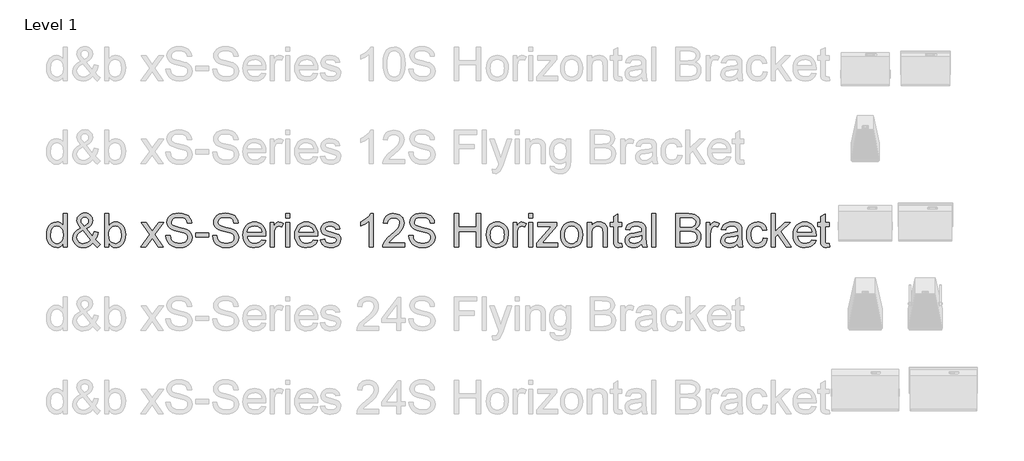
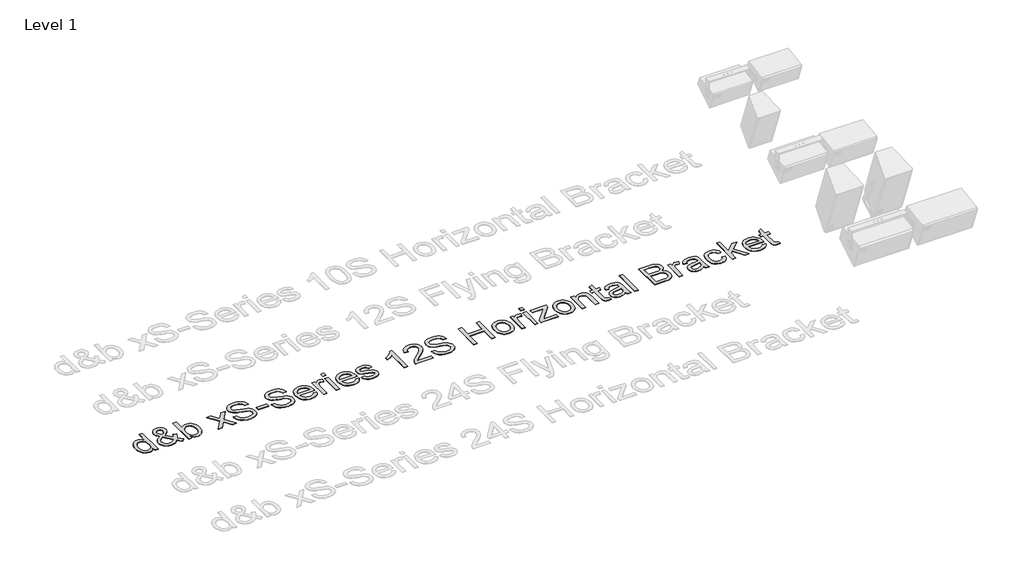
# One storey, part 33 of 55: 1 proxy.
"""IFC4 building model written with IfcOpenShell, lengths in millimetres."""

from ifc_helpers import new_model, si_unit, origin, origin_with_axes, place, context, project, spatial, polyline, outline, extrude, element, save

model = new_model("IFC4")

# Units and contexts
model_context = context("Model", 3, world=origin())
ifc_project = project(units=[si_unit("LENGTHUNIT", "METRE", prefix="MILLI")], contexts=[model_context])

# Site, building, storey
site = spatial("IfcSite", under=ifc_project)
building = spatial("IfcBuilding", under=site)
storey = spatial("IfcBuildingStorey", under=building, Name="Level 1", Elevation=0.0)

# Proxy
placement = place(None, origin())
element("IfcBuildingElementProxy", 1, Name="400mm Arial", ObjectType="400mm Arial", at=placement, inside=storey, context=model_context, shape_type="SweptSolid", body=[
    extrude(outline(polyline([(-20879.8211974, -2648.6945164), (-20879.8211974, -2601.3113154), (-20894.8491769, -2624.7883181), (-20913.0532043, -2641.5576057), (-20934.4332796, -2651.6191783), (-20958.9894028, -2654.9730358), (-20991.4611202, -2650.1169935), (-21021.1859854, -2635.5488665), (-21046.3491139, -2612.2864616), (-21065.1356211, -2581.3475858), (-21076.8342686, -2543.9830379), (-21080.7338177, -2501.4436165), (-21077.1408369, -2459.4314926), (-21066.3618944, -2421.4905962), (-21048.4092531, -2389.7791682), (-21023.2951755, -2366.4554497), (-20992.9203855, -2352.1080519), (-20959.1856065, -2347.325586), (-20934.6110892, -2350.7468885), (-20912.8815261, -2361.0107962), (-20894.4629008, -2376.7438829), (-20879.8211974, -2396.5727224), (-20879.8211974, -2246.8692758), (-20829.5930424, -2246.8692758), (-20829.5930424, -2648.6945164), (-20879.8211974, -2648.6945164)]), holes=[polyline([(-21030.5056627, -2501.2474128), (-21029.089317, -2525.6042665), (-21024.8402799, -2546.6808392), (-21017.7585515, -2564.4771307), (-21007.8441318, -2578.9931411), (-20983.1469871, -2598.3069458), (-20969.2717046, -2603.135397), (-20954.3786151, -2604.7448807), (-20939.415015, -2603.2089734), (-20925.6225058, -2598.6012514), (-20901.5507606, -2580.1703635), (-20892.0440767, -2566.2613584), (-20885.2535882, -2549.1088603), (-20879.8211974, -2505.0733855), (-20885.3516901, -2456.9298951), (-20892.2648059, -2438.3947739), (-20901.9431681, -2423.5507354), (-20913.6448812, -2412.1770504), (-20926.6280499, -2404.0529896), (-20940.8926743, -2399.1785532), (-20956.4387543, -2397.5537411), (-20971.6261493, -2399.1141738), (-20985.5014319, -2403.7954722), (-20998.064602, -2411.5976362), (-21009.3156597, -2422.5206658), (-21018.586286, -2436.8036843), (-21025.2081619, -2454.6858149), (-21030.5056627, -2501.2474128)])]), origin_with_axes(), (0.0, 0.0, 1.0), 5.0),
    extrude(outline(polyline([(-20523.809528, -2599.0549725), (-20549.3405384, -2623.5191252), (-20577.0788409, -2640.99352), (-20607.0734862, -2651.4781569), (-20639.3735254, -2654.9730358), (-20668.6814577, -2652.3855991), (-20694.8010793, -2644.623289), (-20717.7323904, -2631.6861055), (-20737.4753908, -2613.5740486), (-20750.308341, -2596.2038871), (-20759.4747341, -2577.8404442), (-20764.9745699, -2558.4837198), (-20766.8078485, -2538.1337141), (-20760.9094739, -2502.9396699), (-20743.2143499, -2471.3263438), (-20713.796053, -2443.3182613), (-20672.7281596, -2418.9399477), (-20694.6416638, -2390.5885086), (-20707.7995765, -2368.1231814), (-20714.3846642, -2348.9442668), (-20716.5796934, -2330.4520651), (-20714.8506481, -2312.8979626), (-20709.6635119, -2296.5333452), (-20701.018285, -2281.3582129), (-20688.9149674, -2267.3725657), (-20674.1935562, -2255.6555241), (-20657.6940487, -2247.2862088), (-20639.4164449, -2242.2646195), (-20619.3607448, -2240.5907564), (-20600.212487, -2242.1910431), (-20582.8913764, -2246.9919032), (-20567.397413, -2254.9933366), (-20553.7305969, -2266.1953433), (-20542.5715097, -2279.6414302), (-20534.6007332, -2294.3751041), (-20529.8182672, -2310.396365), (-20528.2241119, -2327.7052129), (-20532.9452642, -2355.68877), (-20547.108721, -2381.563137), (-20570.7144823, -2405.3283139), (-20603.7625482, -2426.9843007), (-20531.069066, -2517.5323224), (-20518.6837055, -2491.6579554), (-20509.3885538, -2461.9085647), (-20459.1603987, -2472.7978718), (-20474.6114425, -2519.3226815), (-20494.6732739, -2555.4977443), (-20466.1256311, -2588.8033276), (-20434.0463211, -2616.3209009), (-20471.7174374, -2654.9730358), (-20497.3465498, -2631.52669), (-20523.809528, -2599.0549725)]), holes=[polyline([(-20557.4584678, -2562.8553842), (-20647.1235727, -2450.9211558), (-20681.3733865, -2472.7733463), (-20702.305872, -2493.0068561), (-20713.0112381, -2512.3329235), (-20716.5796934, -2531.4627873), (-20711.6991256, -2555.1543878), (-20697.0574222, -2579.7289051), (-20686.2784798, -2590.6733944), (-20673.4639236, -2598.4908868), (-20658.6137537, -2603.1813823), (-20641.7279702, -2604.7448807), (-20619.0051256, -2601.8263502), (-20595.5710425, -2593.0707588), (-20574.1480476, -2579.6798541), (-20557.4584678, -2562.8553842)]), polyline([(-20629.1709314, -2395.2973981), (-20602.9041569, -2378.6323438), (-20587.8700461, -2364.1500559), (-20580.8067117, -2350.0601755), (-20578.452267, -2334.5723435), (-20581.5547385, -2317.0243723), (-20590.862153, -2303.0325938), (-20604.829406, -2293.8723321), (-20621.9113933, -2290.8189115), (-20639.3612626, -2293.8478066), (-20653.6473468, -2302.9344919), (-20663.1754905, -2316.3867102), (-20666.3515384, -2332.5122043), (-20662.0350563, -2350.9063041), (-20648.9875082, -2371.360543), (-20629.1709314, -2395.2973981)])]), origin_with_axes(), (0.0, 0.0, 1.0), 5.0),
    extrude(outline(polyline([(-20333.590011, -2648.6945164), (-20383.8181661, -2648.6945164), (-20383.8181661, -2246.8692758), (-20333.590011, -2246.8692758), (-20333.590011, -2395.8860093), (-20317.0721094, -2374.6408241), (-20298.4204923, -2359.4656918), (-20277.6351595, -2350.3606124), (-20254.7161112, -2347.325586), (-20228.8417442, -2350.0601755), (-20204.3898543, -2358.263944), (-20182.758393, -2371.4218567), (-20165.3453119, -2389.0188788), (-20151.6968898, -2410.883332), (-20141.3594058, -2436.8435381), (-20134.8478945, -2465.8203766), (-20132.6773907, -2496.734727), (-20134.9245365, -2532.4070178), (-20141.6659741, -2563.7873519), (-20152.9017034, -2590.8757295), (-20168.6317244, -2613.6721505), (-20187.5132678, -2631.7412878), (-20208.2035643, -2644.6478145), (-20230.702614, -2652.3917305), (-20255.0104168, -2654.9730358), (-20278.6836232, -2651.6437038), (-20299.671291, -2641.6557076), (-20317.9734203, -2625.0090473), (-20333.590011, -2601.7037229), (-20333.590011, -2648.6945164)]), holes=[polyline([(-20333.590011, -2499.0891717), (-20330.1564457, -2540.9786682), (-20319.8557498, -2569.3301073), (-20307.6849872, -2584.8240707), (-20293.5399244, -2595.8911874), (-20277.4205617, -2602.5314574), (-20259.3268989, -2604.7448807), (-20244.3050508, -2603.1139372), (-20230.3377977, -2598.2211067), (-20217.4251396, -2590.0663891), (-20205.5670767, -2578.6497845), (-20195.6526569, -2564.0019498), (-20188.5709285, -2546.1535416), (-20184.3218914, -2525.1045601), (-20182.9055458, -2500.8550053), (-20188.3379366, -2454.8942814), (-20195.1284251, -2437.1010555), (-20204.6351089, -2422.7659205), (-20216.0670419, -2411.735592), (-20228.6332778, -2403.8567859), (-20242.3338164, -2399.1295023), (-20257.1686579, -2397.5537411), (-20272.190506, -2399.1846846), (-20286.1577591, -2404.0775151), (-20299.0704171, -2412.2322327), (-20310.9284801, -2423.6488372), (-20320.8428999, -2438.1495192), (-20327.9246283, -2455.556469), (-20332.1736653, -2475.8696865), (-20333.590011, -2499.0891717)])]), origin_with_axes(), (0.0, 0.0, 1.0), 5.0),
    extrude(outline(polyline([(-19950.6003285, -2648.6945164), (-19843.2768878, -2500.2663941), (-19944.3218092, -2353.6041054), (-19884.0872638, -2353.6041054), (-19835.3306367, -2424.3355503), (-19812.4729021, -2457.5920827), (-19792.6563253, -2430.3197641), (-19737.1306695, -2353.6041054), (-19676.6999204, -2353.6041054), (-19782.8461387, -2500.364496), (-19680.623995, -2648.6945164), (-19740.9566422, -2648.6945164), (-19802.5646137, -2559.4218189), (-19813.7482263, -2543.0388074), (-19890.1695795, -2648.6945164), (-19950.6003285, -2648.6945164)])), origin_with_axes(), (0.0, 0.0, 1.0), 5.0),
    extrude(outline(polyline([(-19649.2313981, -2510.56709), (-19599.003243, -2510.56709), (-19593.2397584, -2538.4402825), (-19582.8164352, -2560.844296), (-19566.556051, -2578.6252591), (-19543.2813835, -2592.6293004), (-19514.8318425, -2601.7159856), (-19483.0468381, -2604.7448807), (-19455.063281, -2602.4517496), (-19430.5623402, -2595.5723563), (-19410.7089752, -2584.6830493), (-19396.6681457, -2570.3601769), (-19388.3172244, -2553.9158517), (-19385.533584, -2536.6621862), (-19387.6182486, -2519.849979), (-19393.8722425, -2505.3186402), (-19406.5764341, -2492.9210169), (-19428.0116917, -2482.5099565), (-19501.1466323, -2463.3310418), (-19549.1552327, -2450.639113), (-19579.8733793, -2438.5603208), (-19604.8770922, -2421.6622745), (-19622.5967416, -2401.1835101), (-19633.1549549, -2377.565486), (-19636.6743593, -2351.2496606), (-19632.3210891, -2321.8313637), (-19619.2612782, -2294.3996296), (-19597.8382834, -2271.1494875), (-19568.395461, -2254.2759667), (-19533.054264, -2244.012059), (-19493.9361452, -2240.5907564), (-19451.5561394, -2244.1714745), (-19414.4736342, -2254.9136288), (-19384.013005, -2272.59649), (-19361.4986269, -2296.999329), (-19347.249331, -2326.6015669), (-19341.5839483, -2359.8826247), (-19391.8121033, -2359.8826247), (-19401.0336787, -2329.9125049), (-19409.3968627, -2318.0544419), (-19420.2616443, -2308.2810436), (-19450.3053406, -2295.1844445), (-19491.9741079, -2290.8189115), (-19534.6238939, -2295.1353936), (-19550.9271976, -2300.5309962), (-19563.8827752, -2308.0848398), (-19580.805347, -2327.1411272), (-19586.4462043, -2349.7781326), (-19582.4485532, -2369.0796746), (-19570.4556002, -2384.6042948), (-19542.1041611, -2398.4857088), (-19488.4424407, -2412.6614283), (-19433.0639377, -2426.1259093), (-19399.5621507, -2437.8736077), (-19370.9286687, -2456.0960292), (-19350.9526764, -2478.5858819), (-19339.2172408, -2505.097911), (-19335.3054289, -2535.3868619), (-19339.805852, -2566.3502632), (-19353.3071212, -2595.4742545), (-19375.2574136, -2620.5392811), (-19405.1049061, -2639.3257883), (-19440.9979261, -2651.0612239), (-19481.0848008, -2654.9730358), (-19530.2951491, -2650.7546556), (-19570.7989567, -2638.099515), (-19603.0622077, -2616.958563), (-19627.5508858, -2587.2827487), (-19643.2717098, -2551.1322113), (-19649.2313981, -2510.56709)])), origin_with_axes(), (0.0, 0.0, 1.0), 5.0),
    extrude(outline(polyline([(-19291.3557932, -2529.4026481), (-19291.3557932, -2479.174493), (-19134.3928086, -2479.174493), (-19134.3928086, -2529.4026481), (-19291.3557932, -2529.4026481)])), origin_with_axes(), (0.0, 0.0, 1.0), 5.0),
    extrude(outline(polyline([(-19090.4431729, -2510.56709), (-19040.2150178, -2510.56709), (-19034.4515332, -2538.4402825), (-19024.02821, -2560.844296), (-19007.7678258, -2578.6252591), (-18984.4931583, -2592.6293004), (-18956.0436173, -2601.7159856), (-18924.2586129, -2604.7448807), (-18896.2750558, -2602.4517496), (-18871.774115, -2595.5723563), (-18851.9207499, -2584.6830493), (-18837.8799205, -2570.3601769), (-18829.5289992, -2553.9158517), (-18826.7453587, -2536.6621862), (-18828.8300234, -2519.849979), (-18835.0840173, -2505.3186402), (-18847.7882089, -2492.9210169), (-18869.2234665, -2482.5099565), (-18942.3584071, -2463.3310418), (-18990.3670075, -2450.639113), (-19021.0851541, -2438.5603208), (-19046.088867, -2421.6622745), (-19063.8085164, -2401.1835101), (-19074.3667297, -2377.565486), (-19077.8861341, -2351.2496606), (-19073.5328638, -2321.8313637), (-19060.473053, -2294.3996296), (-19039.0500582, -2271.1494875), (-19009.6072358, -2254.2759667), (-18974.2660388, -2244.012059), (-18935.14792, -2240.5907564), (-18892.7679141, -2244.1714745), (-18855.685409, -2254.9136288), (-18825.2247798, -2272.59649), (-18802.7104017, -2296.999329), (-18788.4611058, -2326.6015669), (-18782.7957231, -2359.8826247), (-18833.0238781, -2359.8826247), (-18842.2454535, -2329.9125049), (-18850.6086375, -2318.0544419), (-18861.4734191, -2308.2810436), (-18891.5171154, -2295.1844445), (-18933.1858827, -2290.8189115), (-18975.8356687, -2295.1353936), (-18992.1389724, -2300.5309962), (-19005.09455, -2308.0848398), (-19022.0171218, -2327.1411272), (-19027.657979, -2349.7781326), (-19023.660328, -2369.0796746), (-19011.667375, -2384.6042948), (-18983.3159359, -2398.4857088), (-18929.6542155, -2412.6614283), (-18874.2757125, -2426.1259093), (-18840.7739255, -2437.8736077), (-18812.1404435, -2456.0960292), (-18792.1644512, -2478.5858819), (-18780.4290156, -2505.097911), (-18776.5172037, -2535.3868619), (-18781.0176267, -2566.3502632), (-18794.518896, -2595.4742545), (-18816.4691883, -2620.5392811), (-18846.3166809, -2639.3257883), (-18882.2097009, -2651.0612239), (-18922.2965756, -2654.9730358), (-18971.5069238, -2650.7546556), (-19012.0107315, -2638.099515), (-19044.2739825, -2616.958563), (-19068.7626606, -2587.2827487), (-19084.4834846, -2551.1322113), (-19090.4431729, -2510.56709)])), origin_with_axes(), (0.0, 0.0, 1.0), 5.0),
    extrude(outline(polyline([(-18500.850962, -2560.795245), (-18451.6038255, -2567.0737644), (-18459.1546035, -2586.7983707), (-18469.3480004, -2604.180795), (-18482.1840164, -2619.2210372), (-18497.6626513, -2631.9190974), (-18515.6244897, -2642.0051955), (-18535.9101161, -2649.2095512), (-18583.4527326, -2654.9730358), (-18614.618469, -2652.4867667), (-18642.3874282, -2645.0279592), (-18666.7596104, -2632.5966135), (-18687.7350155, -2615.1927294), (-18704.602405, -2593.300685), (-18716.6505403, -2567.4048582), (-18723.8794215, -2537.5052491), (-18726.2890486, -2503.6018575), (-18723.8548961, -2468.5488348), (-18716.5524385, -2437.6528785), (-18704.3816758, -2410.9139888), (-18687.342608, -2388.3321657), (-18666.4223852, -2370.3917871), (-18642.6081574, -2357.5772309), (-18615.8999246, -2349.8884972), (-18586.2976867, -2347.325586), (-18557.6488763, -2349.8823658), (-18531.7407868, -2357.5527054), (-18508.5734182, -2370.3366048), (-18488.1467704, -2388.2340638), (-18471.472519, -2410.766836), (-18459.5623394, -2437.4566748), (-18452.4162316, -2468.3035801), (-18450.0341957, -2503.3075519), (-18450.3285013, -2516.8456094), (-18676.0608935, -2516.8456094), (-18673.1515601, -2536.8890467), (-18667.3666157, -2554.4431493), (-18658.7060604, -2569.507917), (-18647.1698942, -2582.0833498), (-18633.3957791, -2591.9977696), (-18618.0213774, -2599.079498), (-18582.4717139, -2604.7448807), (-18555.7389556, -2602.1206558), (-18533.2245775, -2594.2479811), (-18514.9285796, -2580.6363473), (-18500.850962, -2560.795245)]), holes=[polyline([(-18676.0608935, -2466.6174543), (-18500.2623508, -2466.6174543), (-18507.0559049, -2440.0808997), (-18520.3732332, -2421.0981887), (-18534.0707061, -2410.7974929), (-18549.65664, -2403.439853), (-18567.1310348, -2399.025269), (-18586.4938904, -2397.5537411), (-18620.3512967, -2402.2503679), (-18648.3471166, -2416.3402483), (-18667.8080741, -2438.3028034), (-18676.0608935, -2466.6174543)])]), origin_with_axes(), (0.0, 0.0, 1.0), 5.0),
    extrude(outline(polyline([(-18399.8060406, -2648.6945164), (-18399.8060406, -2353.6041054), (-18355.8564049, -2353.6041054), (-18355.8564049, -2397.2594355), (-18339.6205462, -2371.9491542), (-18324.6600117, -2357.0376707), (-18309.6504263, -2349.7536071), (-18293.2674148, -2347.325586), (-18268.2514391, -2351.2006097), (-18242.843056, -2362.8256807), (-18259.618475, -2407.8544369), (-18277.2768108, -2400.128915), (-18294.9351465, -2397.5537411), (-18309.9324692, -2400.0308132), (-18323.3356365, -2407.4620295), (-18334.1636299, -2419.2833042), (-18341.4354307, -2434.9305518), (-18347.5422718, -2462.9876853), (-18349.5778855, -2493.5954673), (-18349.5778855, -2648.6945164), (-18399.8060406, -2648.6945164)])), origin_with_axes(), (0.0, 0.0, 1.0), 5.0),
    extrude(outline(polyline([(-18211.4504591, -2297.0974309), (-18211.4504591, -2246.8692758), (-18161.222304, -2246.8692758), (-18161.222304, -2297.0974309), (-18211.4504591, -2297.0974309)])), origin_with_axes(), (0.0, 0.0, 1.0), 5.0),
    extrude(outline(polyline([(-18211.4504591, -2648.6945164), (-18211.4504591, -2353.6041054), (-18161.222304, -2353.6041054), (-18161.222304, -2648.6945164), (-18211.4504591, -2648.6945164)])), origin_with_axes(), (0.0, 0.0, 1.0), 5.0),
    extrude(outline(polyline([(-17879.2775429, -2560.795245), (-17830.0304065, -2567.0737644), (-17837.5811844, -2586.7983707), (-17847.7745814, -2604.180795), (-17860.6105973, -2619.2210372), (-17876.0892323, -2631.9190974), (-17894.0510707, -2642.0051955), (-17914.336697, -2649.2095512), (-17961.8793136, -2654.9730358), (-17993.0450499, -2652.4867667), (-18020.8140092, -2645.0279592), (-18045.1861914, -2632.5966135), (-18066.1615965, -2615.1927294), (-18083.0289859, -2593.300685), (-18095.0771213, -2567.4048582), (-18102.3060025, -2537.5052491), (-18104.7156295, -2503.6018575), (-18102.281477, -2468.5488348), (-18094.9790194, -2437.6528785), (-18082.8082567, -2410.9139888), (-18065.769189, -2388.3321657), (-18044.8489662, -2370.3917871), (-18021.0347384, -2357.5772309), (-17994.3265055, -2349.8884972), (-17964.7242676, -2347.325586), (-17936.0754573, -2349.8823658), (-17910.1673678, -2357.5527054), (-17886.9999991, -2370.3366048), (-17866.5733513, -2388.2340638), (-17849.8990999, -2410.766836), (-17837.9889203, -2437.4566748), (-17830.8428126, -2468.3035801), (-17828.4607766, -2503.3075519), (-17828.7550822, -2516.8456094), (-18054.4874745, -2516.8456094), (-18051.578141, -2536.8890467), (-18045.7931967, -2554.4431493), (-18037.1326413, -2569.507917), (-18025.5964751, -2582.0833498), (-18011.8223601, -2591.9977696), (-17996.4479584, -2599.079498), (-17960.8982949, -2604.7448807), (-17934.1655366, -2602.1206558), (-17911.6511585, -2594.2479811), (-17893.3551606, -2580.6363473), (-17879.2775429, -2560.795245)]), holes=[polyline([(-18054.4874745, -2466.6174543), (-17878.6889317, -2466.6174543), (-17885.4824859, -2440.0808997), (-17898.7998141, -2421.0981887), (-17912.4972871, -2410.7974929), (-17928.0832209, -2403.439853), (-17945.5576157, -2399.025269), (-17964.9204714, -2397.5537411), (-17998.7778777, -2402.2503679), (-18026.7736975, -2416.3402483), (-18046.234655, -2438.3028034), (-18054.4874745, -2466.6174543)])]), origin_with_axes(), (0.0, 0.0, 1.0), 5.0),
    extrude(outline(polyline([(-17797.0681797, -2560.795245), (-17746.8400246, -2554.5167257), (-17738.918299, -2576.0010342), (-17723.5898825, -2591.7954345), (-17700.7566734, -2601.5075192), (-17670.3205696, -2604.7448807), (-17640.2523479, -2601.7772993), (-17619.1113959, -2592.874555), (-17606.6034081, -2579.9741597), (-17602.4340788, -2565.0136253), (-17606.6279335, -2552.2113318), (-17619.2094978, -2542.4501962), (-17670.9091808, -2528.1273239), (-17746.545719, -2503.5528066), (-17765.6878455, -2491.2042343), (-17779.5569967, -2474.858011), (-17787.9814944, -2455.556469), (-17790.7896603, -2434.3419406), (-17788.5333174, -2414.880983), (-17781.7642887, -2396.9160789), (-17771.0957109, -2381.1584668), (-17757.1407205, -2368.3193852), (-17725.2085633, -2353.4569526), (-17704.3251287, -2348.8584276), (-17681.9946916, -2347.325586), (-17649.302245, -2349.7903953), (-17620.8772295, -2357.1848234), (-17598.0194949, -2368.785369), (-17582.0288908, -2383.8685308), (-17571.4338893, -2403.5502176), (-17564.7629625, -2428.946338), (-17614.9911176, -2435.2248574), (-17621.3309506, -2419.4181943), (-17633.8757267, -2407.5110804), (-17652.748073, -2400.0430759), (-17678.070617, -2397.5537411), (-17706.9125654, -2399.9327113), (-17726.140531, -2407.069622), (-17736.9562617, -2417.3703179), (-17740.5615053, -2429.2406436), (-17734.5772915, -2443.8578215), (-17715.8398352, -2454.9433323), (-17672.5769125, -2465.6364356), (-17598.8533607, -2489.2789852), (-17579.3801404, -2500.5852252), (-17564.6158097, -2516.0607944), (-17555.3083952, -2535.7547439), (-17552.2059237, -2559.7161245), (-17555.8479555, -2584.4868455), (-17566.7740507, -2607.7860386), (-17584.5672766, -2627.7865564), (-17608.8107, -2642.6612517), (-17638.0941069, -2651.8950898), (-17671.0072827, -2654.9730358), (-17698.040478, -2653.4892451), (-17721.6523707, -2649.037873), (-17741.8429609, -2641.6189194), (-17758.6122485, -2631.2323844), (-17772.3097214, -2617.9273189), (-17783.2848676, -2601.7527738), (-17791.5376871, -2582.7087492), (-17797.0681797, -2560.795245)])), origin_with_axes(), (0.0, 0.0, 1.0), 5.0),
    extrude(outline(polyline([(-17162.9377219, -2648.6945164), (-17213.165877, -2648.6945164), (-17213.165877, -2335.5533621), (-17234.1351507, -2352.5127221), (-17260.7452817, -2369.4475566), (-17313.6221871, -2394.8068888), (-17313.6221871, -2347.325586), (-17274.1729745, -2325.8658029), (-17239.9967371, -2300.3347925), (-17213.0555124, -2273.1851012), (-17195.3113375, -2246.8692758), (-17162.9377219, -2246.8692758), (-17162.9377219, -2648.6945164)])), origin_with_axes(), (0.0, 0.0, 1.0), 5.0),
    extrude(outline(polyline([(-16786.2265588, -2598.4663614), (-16786.2265588, -2648.6945164), (-17049.924373, -2648.6945164), (-17048.820727, -2631.0116552), (-17044.5287704, -2614.0645579), (-17032.1311471, -2587.0007058), (-17013.9700393, -2560.7461941), (-16987.7155276, -2533.2654091), (-16951.0376927, -2502.522737), (-16896.8486748, -2454.3792466), (-16864.3646946, -2418.8418458), (-16848.1410986, -2389.9998974), (-16842.7332333, -2361.9427639), (-16847.846793, -2336.7918982), (-16863.1874722, -2315.8839381), (-16886.7687081, -2301.7940577), (-16916.6039379, -2297.0974309), (-16947.9352212, -2301.6836931), (-16972.2767465, -2315.4424797), (-16987.9853077, -2337.2946702), (-16993.4176985, -2366.1611441), (-17043.6458536, -2359.8826247), (-17039.3263058, -2333.9530755), (-17031.4689596, -2311.2976759), (-17020.0738147, -2291.9164261), (-17005.1408714, -2275.8093261), (-16987.0134861, -2263.1480541), (-16966.0350153, -2254.1042884), (-16942.2054591, -2248.678029), (-16915.5248174, -2246.8692758), (-16888.6050524, -2248.8803641), (-16864.6467375, -2254.9136288), (-16843.6498726, -2264.96907), (-16825.6144578, -2279.0466877), (-16811.1291042, -2296.1041495), (-16800.7824231, -2315.0991232), (-16794.5744144, -2336.0316087), (-16792.5050782, -2358.9016061), (-16794.7368957, -2382.9243004), (-16801.432348, -2406.5300617), (-16813.3149364, -2430.5404933), (-16831.1081622, -2455.7771982), (-16859.4718641, -2485.9067336), (-16903.0658805, -2524.5956567), (-16960.8478792, -2572.9108254), (-16983.5094101, -2598.4663614), (-16786.2265588, -2598.4663614)])), origin_with_axes(), (0.0, 0.0, 1.0), 5.0),
    extrude(outline(polyline([(-16735.9984038, -2510.56709), (-16685.7702487, -2510.56709), (-16680.0067641, -2538.4402825), (-16669.5834409, -2560.844296), (-16653.3230567, -2578.6252591), (-16630.0483891, -2592.6293004), (-16601.5988482, -2601.7159856), (-16569.8138438, -2604.7448807), (-16541.8302867, -2602.4517496), (-16517.3293458, -2595.5723563), (-16497.4759808, -2584.6830493), (-16483.4351513, -2570.3601769), (-16475.08423, -2553.9158517), (-16472.3005896, -2536.6621862), (-16474.3852543, -2519.849979), (-16480.6392482, -2505.3186402), (-16493.3434397, -2492.9210169), (-16514.7786973, -2482.5099565), (-16587.913638, -2463.3310418), (-16635.9222383, -2450.639113), (-16666.6403849, -2438.5603208), (-16691.6440979, -2421.6622745), (-16709.3637473, -2401.1835101), (-16719.9219606, -2377.565486), (-16723.441365, -2351.2496606), (-16719.0880947, -2321.8313637), (-16706.0282839, -2294.3996296), (-16684.605289, -2271.1494875), (-16655.1624667, -2254.2759667), (-16619.8212697, -2244.012059), (-16580.7031509, -2240.5907564), (-16538.323145, -2244.1714745), (-16501.2406399, -2254.9136288), (-16470.7800107, -2272.59649), (-16448.2656326, -2296.999329), (-16434.0163367, -2326.6015669), (-16428.3509539, -2359.8826247), (-16478.579109, -2359.8826247), (-16487.8006843, -2329.9125049), (-16496.1638684, -2318.0544419), (-16507.02865, -2308.2810436), (-16537.0723462, -2295.1844445), (-16578.7411136, -2290.8189115), (-16621.3908995, -2295.1353936), (-16637.6942033, -2300.5309962), (-16650.6497809, -2308.0848398), (-16667.5723527, -2327.1411272), (-16673.2132099, -2349.7781326), (-16669.2155589, -2369.0796746), (-16657.2226059, -2384.6042948), (-16628.8711668, -2398.4857088), (-16575.2094464, -2412.6614283), (-16519.8309434, -2426.1259093), (-16486.3291564, -2437.8736077), (-16457.6956744, -2456.0960292), (-16437.7196821, -2478.5858819), (-16425.9842464, -2505.097911), (-16422.0724345, -2535.3868619), (-16426.5728576, -2566.3502632), (-16440.0741268, -2595.4742545), (-16462.0244192, -2620.5392811), (-16491.8719118, -2639.3257883), (-16527.7649318, -2651.0612239), (-16567.8518065, -2654.9730358), (-16617.0621547, -2650.7546556), (-16657.5659624, -2638.099515), (-16689.8292134, -2616.958563), (-16714.3178915, -2587.2827487), (-16730.0387154, -2551.1322113), (-16735.9984038, -2510.56709)])), origin_with_axes(), (0.0, 0.0, 1.0), 5.0),
    extrude(outline(polyline([(-16189.7672173, -2648.6945164), (-16189.7672173, -2246.8692758), (-16139.5390622, -2246.8692758), (-16139.5390622, -2410.1107798), (-15926.0694032, -2410.1107798), (-15926.0694032, -2246.8692758), (-15875.8412481, -2246.8692758), (-15875.8412481, -2648.6945164), (-15926.0694032, -2648.6945164), (-15926.0694032, -2460.3389349), (-16139.5390622, -2460.3389349), (-16139.5390622, -2648.6945164), (-16189.7672173, -2648.6945164)])), origin_with_axes(), (0.0, 0.0, 1.0), 5.0),
    extrude(outline(polyline([(-15806.7775349, -2501.1493109), (-15804.0613395, -2462.932503), (-15795.9127533, -2430.000933), (-15782.3317763, -2402.3546011), (-15763.3184085, -2379.9935072), (-15744.176282, -2365.7012916), (-15723.0475928, -2355.4925663), (-15699.9323407, -2349.3673311), (-15674.8305259, -2347.325586), (-15647.1198147, -2349.8118551), (-15622.0639851, -2357.2706626), (-15599.6630373, -2369.7020083), (-15579.9169712, -2387.1058924), (-15563.8006741, -2408.8937036), (-15552.2890333, -2434.4768306), (-15545.3820489, -2463.8552736), (-15543.0797207, -2497.0290325), (-15547.1509481, -2547.7722224), (-15559.3646304, -2586.3998319), (-15579.3651482, -2615.3276195), (-15606.7968823, -2636.9713435), (-15639.3789643, -2650.4726127), (-15674.8305259, -2654.9730358), (-15702.9459074, -2652.4959637), (-15728.2347289, -2645.0647474), (-15750.6969904, -2632.6793869), (-15770.3326919, -2615.3398822), (-15786.2773107, -2593.3405389), (-15797.6663241, -2566.9756626), (-15804.4997322, -2536.2452532), (-15806.7775349, -2501.1493109)]), holes=[polyline([(-15756.5493798, -2501.051209), (-15755.0962459, -2525.4141942), (-15750.7368443, -2546.5091609), (-15743.4711749, -2564.3361093), (-15733.2992377, -2578.8950392), (-15720.9261399, -2590.2043449), (-15707.0569887, -2598.2824204), (-15691.691784, -2603.1292656), (-15674.8305259, -2604.7448807), (-15658.055107, -2603.1200686), (-15642.751216, -2598.2456322), (-15628.9188529, -2590.1215714), (-15616.5580179, -2578.7478864), (-15606.3860807, -2564.0448693), (-15599.1204113, -2545.9328124), (-15594.7610097, -2524.4117157), (-15593.3078758, -2499.4815792), (-15594.7702067, -2475.8911462), (-15599.1571995, -2455.3480025), (-15606.4688542, -2437.8521479), (-15616.7051707, -2423.4035826), (-15629.111991, -2412.0942769), (-15642.935157, -2404.0162014), (-15658.1746686, -2399.1693561), (-15674.8305259, -2397.5537411), (-15691.691784, -2399.1632248), (-15707.0569887, -2403.991676), (-15720.9261399, -2412.0390946), (-15733.2992377, -2423.3054807), (-15743.4711749, -2437.8214911), (-15750.7368443, -2455.6177826), (-15755.0962459, -2476.6943553), (-15756.5493798, -2501.051209)])]), origin_with_axes(), (0.0, 0.0, 1.0), 5.0),
    extrude(outline(polyline([(-15486.5730463, -2648.6945164), (-15486.5730463, -2353.6041054), (-15442.6234106, -2353.6041054), (-15442.6234106, -2397.2594355), (-15426.3875519, -2371.9491542), (-15411.4270174, -2357.0376707), (-15396.417432, -2349.7536071), (-15380.0344205, -2347.325586), (-15355.0184448, -2351.2006097), (-15329.6100617, -2362.8256807), (-15346.3854806, -2407.8544369), (-15364.0438164, -2400.128915), (-15381.7021522, -2397.5537411), (-15396.6994749, -2400.0308132), (-15410.1026422, -2407.4620295), (-15420.9306356, -2419.2833042), (-15428.2024364, -2434.9305518), (-15434.3092775, -2462.9876853), (-15436.3448912, -2493.5954673), (-15436.3448912, -2648.6945164), (-15486.5730463, -2648.6945164)])), origin_with_axes(), (0.0, 0.0, 1.0), 5.0),
    extrude(outline(polyline([(-15298.2174647, -2648.6945164), (-15298.2174647, -2353.6041054), (-15247.9893097, -2353.6041054), (-15247.9893097, -2648.6945164), (-15298.2174647, -2648.6945164)])), origin_with_axes(), (0.0, 0.0, 1.0), 5.0),
    extrude(outline(polyline([(-15298.2174647, -2297.0974309), (-15298.2174647, -2246.8692758), (-15247.9893097, -2246.8692758), (-15247.9893097, -2297.0974309), (-15298.2174647, -2297.0974309)])), origin_with_axes(), (0.0, 0.0, 1.0), 5.0),
    extrude(outline(polyline([(-15204.039674, -2648.6945164), (-15204.039674, -2601.4094173), (-15030.6936778, -2403.8322604), (-15082.0009534, -2403.8322604), (-15191.4826352, -2403.8322604), (-15191.4826352, -2353.6041054), (-14959.177418, -2353.6041054), (-14959.177418, -2396.2784168), (-15112.903041, -2571.5864502), (-15136.4474887, -2598.4663614), (-15078.3711844, -2598.4663614), (-14952.8988986, -2598.4663614), (-14952.8988986, -2648.6945164), (-15204.039674, -2648.6945164)])), origin_with_axes(), (0.0, 0.0, 1.0), 5.0),
    extrude(outline(polyline([(-14915.2277823, -2501.1493109), (-14912.5115869, -2462.932503), (-14904.3630007, -2430.000933), (-14890.7820237, -2402.3546011), (-14871.7686559, -2379.9935072), (-14852.6265295, -2365.7012916), (-14831.4978402, -2355.4925663), (-14808.3825882, -2349.3673311), (-14783.2807734, -2347.325586), (-14755.5700621, -2349.8118551), (-14730.5142325, -2357.2706626), (-14708.1132847, -2369.7020083), (-14688.3672186, -2387.1058924), (-14672.2509215, -2408.8937036), (-14660.7392808, -2434.4768306), (-14653.8322963, -2463.8552736), (-14651.5299682, -2497.0290325), (-14655.6011956, -2547.7722224), (-14667.8148778, -2586.3998319), (-14687.8153956, -2615.3276195), (-14715.2471297, -2636.9713435), (-14747.8292118, -2650.4726127), (-14783.2807734, -2654.9730358), (-14811.3961548, -2652.4959637), (-14836.6849763, -2645.0647474), (-14859.1472378, -2632.6793869), (-14878.7829393, -2615.3398822), (-14894.7275581, -2593.3405389), (-14906.1165715, -2566.9756626), (-14912.9499796, -2536.2452532), (-14915.2277823, -2501.1493109)]), holes=[polyline([(-14864.9996272, -2501.051209), (-14863.5464933, -2525.4141942), (-14859.1870917, -2546.5091609), (-14851.9214223, -2564.3361093), (-14841.7494851, -2578.8950392), (-14829.3763874, -2590.2043449), (-14815.5072361, -2598.2824204), (-14800.1420315, -2603.1292656), (-14783.2807734, -2604.7448807), (-14766.5053544, -2603.1200686), (-14751.2014634, -2598.2456322), (-14737.3691004, -2590.1215714), (-14725.0082653, -2578.7478864), (-14714.8363282, -2564.0448693), (-14707.5706588, -2545.9328124), (-14703.2112571, -2524.4117157), (-14701.7581232, -2499.4815792), (-14703.2204542, -2475.8911462), (-14707.607447, -2455.3480025), (-14714.9191016, -2437.8521479), (-14725.1554181, -2423.4035826), (-14737.5622384, -2412.0942769), (-14751.3854044, -2404.0162014), (-14766.624916, -2399.1693561), (-14783.2807734, -2397.5537411), (-14800.1420315, -2399.1632248), (-14815.5072361, -2403.991676), (-14829.3763874, -2412.0390946), (-14841.7494851, -2423.3054807), (-14851.9214223, -2437.8214911), (-14859.1870917, -2455.6177826), (-14863.5464933, -2476.6943553), (-14864.9996272, -2501.051209)])]), origin_with_axes(), (0.0, 0.0, 1.0), 5.0),
    extrude(outline(polyline([(-14595.0232937, -2648.6945164), (-14595.0232937, -2353.6041054), (-14544.7951386, -2353.6041054), (-14544.7951386, -2394.8068888), (-14527.3452693, -2374.0338188), (-14506.3882583, -2359.1959117), (-14481.9241056, -2350.2931674), (-14453.9528113, -2347.325586), (-14429.194353, -2349.7168189), (-14406.5205594, -2356.8905179), (-14387.6114248, -2367.9515032), (-14374.1469438, -2382.0045954), (-14365.0112076, -2399.0130063), (-14359.0883075, -2418.9399477), (-14356.4395571, -2467.5003711), (-14356.4395571, -2648.6945164), (-14406.6677122, -2648.6945164), (-14406.6677122, -2474.2693998), (-14408.1147147, -2448.2969309), (-14412.4557222, -2429.8292548), (-14420.463287, -2416.5977657), (-14432.9099612, -2406.333858), (-14448.863777, -2399.7487703), (-14467.3927668, -2397.5537411), (-14496.8110637, -2402.4833598), (-14521.8883531, -2417.272216), (-14531.9100717, -2429.3448768), (-14539.0684422, -2445.8443843), (-14543.3634645, -2466.7707384), (-14544.7951386, -2492.1239393), (-14544.7951386, -2648.6945164), (-14595.0232937, -2648.6945164)])), origin_with_axes(), (0.0, 0.0, 1.0), 5.0),
    extrude(outline(polyline([(-14180.6410143, -2606.8050199), (-14174.3624949, -2650.1660444), (-14211.9355094, -2654.9730358), (-14236.0440428, -2652.8883712), (-14254.0212096, -2646.6343773), (-14266.7254012, -2636.995869), (-14275.0150088, -2624.7576613), (-14279.5767456, -2603.7393366), (-14281.0973245, -2567.7604775), (-14281.0973245, -2403.8322604), (-14318.7684408, -2403.8322604), (-14318.7684408, -2353.6041054), (-14281.0973245, -2353.6041054), (-14281.0973245, -2281.8916418), (-14230.8691694, -2252.3629803), (-14230.8691694, -2353.6041054), (-14180.6410143, -2353.6041054), (-14180.6410143, -2403.8322604), (-14230.8691694, -2403.8322604), (-14230.8691694, -2566.2889495), (-14228.220419, -2592.187842), (-14219.6365058, -2601.3603664), (-14202.5177303, -2604.7448807), (-14180.6410143, -2606.8050199)])), origin_with_axes(), (0.0, 0.0, 1.0), 5.0),
    extrude(outline(polyline([(-13942.0572777, -2611.0234001), (-13966.0554465, -2631.6002664), (-13990.7648539, -2645.0647474), (-14016.7495855, -2652.4959637), (-14044.573727, -2654.9730358), (-14066.9378867, -2653.4831137), (-14086.5490627, -2649.0133475), (-14103.4072551, -2641.5637371), (-14117.512464, -2631.1342825), (-14128.6500914, -2618.3871714), (-14136.6055395, -2603.9845913), (-14141.3788084, -2587.9265422), (-14142.969898, -2570.2130241), (-14140.5664023, -2549.3909032), (-14133.3559152, -2530.4817686), (-14122.2336162, -2514.2949609), (-14108.0946849, -2501.6398202), (-14091.4786814, -2492.0748883), (-14072.9251661, -2485.1587068), (-14029.4660398, -2477.6048632), (-13978.1097132, -2469.6586121), (-13942.3515833, -2460.3389349), (-13942.0572777, -2449.1553222), (-13945.5153685, -2426.739046), (-13955.8896407, -2412.0728171), (-13979.0907319, -2401.1835101), (-14011.4152965, -2397.5537411), (-14041.3363655, -2399.9694995), (-14062.2320628, -2407.2167748), (-14076.4813588, -2420.6199422), (-14086.4632236, -2441.5033767), (-14136.6913786, -2435.2248574), (-14127.9725754, -2407.7563351), (-14114.9618155, -2386.1739247), (-14096.4450884, -2369.6682858), (-14071.2083835, -2357.4300781), (-14040.3430841, -2349.851709), (-14004.9405734, -2347.325586), (-13970.9850653, -2349.5574034), (-13944.068366, -2356.2528557), (-13923.7735426, -2366.3205597), (-13909.6836621, -2378.669132), (-13900.3394595, -2393.9362348), (-13894.2816693, -2412.7595302), (-13891.8291226, -2456.7091659), (-13891.8291226, -2519.2000541), (-13889.2784741, -2606.4616634), (-13879.2720839, -2648.6945164), (-13929.500239, -2648.6945164), (-13937.5445919, -2631.2323844), (-13942.0572777, -2611.0234001)]), holes=[polyline([(-13942.0572777, -2510.56709), (-13975.8043194, -2518.930274), (-14023.0894185, -2525.9690828), (-14066.3032902, -2534.1115377), (-14077.5482165, -2539.6788185), (-14085.8746124, -2547.3552895), (-14091.0249603, -2556.5523394), (-14092.7417429, -2566.681357), (-14089.0016093, -2581.617366), (-14077.7812085, -2593.8555737), (-14059.3257951, -2602.022554), (-14033.8806237, -2604.7448807), (-14006.9026107, -2601.7405111), (-13983.0638575, -2592.7274022), (-13963.73779, -2579.4468622), (-13950.2978344, -2563.6401991), (-13944.3381461, -2547.3552895), (-13942.3515833, -2524.7918605), (-13942.0572777, -2510.56709)])]), origin_with_axes(), (0.0, 0.0, 1.0), 5.0),
    extrude(outline(polyline([(-13822.7654094, -2648.6945164), (-13822.7654094, -2246.8692758), (-13772.5372543, -2246.8692758), (-13772.5372543, -2648.6945164), (-13822.7654094, -2648.6945164)])), origin_with_axes(), (0.0, 0.0, 1.0), 5.0),
    extrude(outline(polyline([(-13533.9535177, -2648.6945164), (-13533.9535177, -2246.8692758), (-13380.6203021, -2246.8692758), (-13338.4487628, -2249.8245945), (-13305.5233242, -2258.6905506), (-13280.2866193, -2273.6878733), (-13261.181281, -2295.0372917), (-13249.1515398, -2320.1513693), (-13245.1416261, -2346.4426692), (-13248.5138777, -2370.6370417), (-13258.6306325, -2393.3844118), (-13275.5654671, -2413.2868277), (-13299.3919576, -2428.946338), (-13270.9301539, -2443.8087706), (-13249.8995665, -2466.4212506), (-13236.9133321, -2495.2877244), (-13232.5845873, -2528.9121388), (-13235.539906, -2556.9324841), (-13244.4058621, -2582.9172157), (-13257.6373512, -2605.0146609), (-13273.6892689, -2621.3731469), (-13293.3464302, -2633.2189472), (-13317.3936499, -2641.7783349), (-13346.6157431, -2646.9654711), (-13381.7975245, -2648.6945164), (-13533.9535177, -2648.6945164)]), holes=[polyline([(-13483.7253627, -2410.1107798), (-13392.0001185, -2410.1107798), (-13338.4365, -2405.7942977), (-13319.686781, -2398.3508187), (-13306.2100373, -2387.2039943), (-13298.0798452, -2372.5255026), (-13295.3697811, -2354.4870222), (-13297.8959042, -2336.9758392), (-13305.4742733, -2321.7209991), (-13317.7615319, -2309.8138852), (-13334.4143236, -2302.3458807), (-13359.9698595, -2298.4095434), (-13398.965351, -2297.0974309), (-13483.7253627, -2297.0974309), (-13483.7253627, -2410.1107798)]), polyline([(-13483.7253627, -2598.4663614), (-13380.718404, -2598.4663614), (-13343.4396952, -2596.504324), (-13311.8999455, -2585.5659661), (-13300.3239253, -2576.1359242), (-13291.0042481, -2563.2477917), (-13284.8606188, -2547.4779168), (-13282.8127424, -2529.4026481), (-13285.2162381, -2508.4088489), (-13292.4267252, -2490.3581057), (-13305.0205521, -2476.2436998), (-13323.5740674, -2467.0589127), (-13349.8531046, -2462.0189293), (-13385.6234973, -2460.3389349), (-13483.7253627, -2460.3389349), (-13483.7253627, -2598.4663614)])]), origin_with_axes(), (0.0, 0.0, 1.0), 5.0),
    extrude(outline(polyline([(-13169.7993934, -2648.6945164), (-13169.7993934, -2353.6041054), (-13125.8497578, -2353.6041054), (-13125.8497578, -2397.2594355), (-13109.613899, -2371.9491542), (-13094.6533646, -2357.0376707), (-13079.6437792, -2349.7536071), (-13063.2607676, -2347.325586), (-13038.244792, -2351.2006097), (-13012.8364088, -2362.8256807), (-13029.6118278, -2407.8544369), (-13047.2701636, -2400.128915), (-13064.9284994, -2397.5537411), (-13079.925822, -2400.0308132), (-13093.3289894, -2407.4620295), (-13104.1569828, -2419.2833042), (-13111.4287835, -2434.9305518), (-13117.5356247, -2462.9876853), (-13119.5712384, -2493.5954673), (-13119.5712384, -2648.6945164), (-13169.7993934, -2648.6945164)])), origin_with_axes(), (0.0, 0.0, 1.0), 5.0),
    extrude(outline(polyline([(-12793.0882304, -2611.0234001), (-12817.0863992, -2631.6002664), (-12841.7958065, -2645.0647474), (-12867.7805381, -2652.4959637), (-12895.6046797, -2654.9730358), (-12917.9688393, -2653.4831137), (-12937.5800154, -2649.0133475), (-12954.4382078, -2641.5637371), (-12968.5434166, -2631.1342825), (-12979.681044, -2618.3871714), (-12987.6364922, -2603.9845913), (-12992.4097611, -2587.9265422), (-12994.0008507, -2570.2130241), (-12991.597355, -2549.3909032), (-12984.3868679, -2530.4817686), (-12973.2645689, -2514.2949609), (-12959.1256375, -2501.6398202), (-12942.5096341, -2492.0748883), (-12923.9561188, -2485.1587068), (-12880.4969924, -2477.6048632), (-12829.1406659, -2469.6586121), (-12793.382536, -2460.3389349), (-12793.0882304, -2449.1553222), (-12796.5463211, -2426.739046), (-12806.9205934, -2412.0728171), (-12830.1216846, -2401.1835101), (-12862.4462492, -2397.5537411), (-12892.3673182, -2399.9694995), (-12913.2630155, -2407.2167748), (-12927.5123114, -2420.6199422), (-12937.4941762, -2441.5033767), (-12987.7223313, -2435.2248574), (-12979.003528, -2407.7563351), (-12965.9927681, -2386.1739247), (-12947.476041, -2369.6682858), (-12922.2393362, -2357.4300781), (-12891.3740368, -2349.851709), (-12855.9715261, -2347.325586), (-12822.0160179, -2349.5574034), (-12795.0993186, -2356.2528557), (-12774.8044952, -2366.3205597), (-12760.7146148, -2378.669132), (-12751.3704121, -2393.9362348), (-12745.3126219, -2412.7595302), (-12742.8600753, -2456.7091659), (-12742.8600753, -2519.2000541), (-12740.3094268, -2606.4616634), (-12730.3030365, -2648.6945164), (-12780.5311916, -2648.6945164), (-12788.5755446, -2631.2323844), (-12793.0882304, -2611.0234001)]), holes=[polyline([(-12793.0882304, -2510.56709), (-12826.8352721, -2518.930274), (-12874.1203712, -2525.9690828), (-12917.3342429, -2534.1115377), (-12928.5791692, -2539.6788185), (-12936.905565, -2547.3552895), (-12942.055913, -2556.5523394), (-12943.7726956, -2566.681357), (-12940.032562, -2581.617366), (-12928.8121611, -2593.8555737), (-12910.3567477, -2602.022554), (-12884.9115764, -2604.7448807), (-12857.9335634, -2601.7405111), (-12834.0948101, -2592.7274022), (-12814.7687426, -2579.4468622), (-12801.3287871, -2563.6401991), (-12795.3690988, -2547.3552895), (-12793.382536, -2524.7918605), (-12793.0882304, -2510.56709)])]), origin_with_axes(), (0.0, 0.0, 1.0), 5.0),
    extrude(outline(polyline([(-12485.4407806, -2541.9596869), (-12435.2126255, -2548.2382063), (-12440.6756731, -2571.9390038), (-12449.2166668, -2592.9113432), (-12460.8356064, -2611.1552245), (-12475.5324921, -2626.6706476), (-12492.6880559, -2639.0529425), (-12511.6830295, -2647.8974388), (-12532.5174132, -2653.2041366), (-12555.1912068, -2654.9730358), (-12583.3617706, -2652.5051608), (-12608.6199353, -2645.1015356), (-12630.9657008, -2632.7621604), (-12650.3990672, -2615.487035), (-12666.1290882, -2593.601122), (-12677.3648174, -2567.4293837), (-12684.106255, -2536.9718202), (-12686.3534009, -2502.2284314), (-12682.5151654, -2457.530769), (-12671.0004589, -2418.7927949), (-12651.6253405, -2387.5105626), (-12624.2058691, -2365.1801255), (-12591.4030579, -2351.7892209), (-12555.8779199, -2347.325586), (-12533.593468, -2348.8584276), (-12513.4366004, -2353.4569526), (-12495.4073169, -2361.1211608), (-12479.5056177, -2371.8510523), (-12466.0012828, -2385.4013725), (-12455.1640923, -2401.5268666), (-12446.9940464, -2420.2275347), (-12441.4911449, -2441.5033767), (-12491.7192999, -2447.7818961), (-12500.8305107, -2425.8683919), (-12515.018493, -2410.1598308), (-12533.4984319, -2400.7052635), (-12555.4855124, -2397.5537411), (-12572.5521713, -2399.1049768), (-12587.9449671, -2403.758684), (-12601.6638999, -2411.5148628), (-12613.7089695, -2422.373513), (-12623.5160904, -2436.5860207), (-12630.5211767, -2454.403772), (-12634.7242285, -2475.8267669), (-12636.1252458, -2500.8550053), (-12630.643804, -2547.9316379), (-12623.7920019, -2565.8689509), (-12614.1994789, -2580.0722616), (-12602.3935325, -2590.8665325), (-12588.9014603, -2598.576726), (-12573.7232623, -2603.202842), (-12556.8589385, -2604.7448807), (-12530.8496815, -2600.8943825), (-12509.5247885, -2589.3428879), (-12494.012431, -2569.7960912), (-12485.4407806, -2541.9596869)])), origin_with_axes(), (0.0, 0.0, 1.0), 5.0),
    extrude(outline(polyline([(-12391.2629898, -2648.6945164), (-12391.2629898, -2246.8692758), (-12341.0348347, -2246.8692758), (-12341.0348347, -2462.7914815), (-12228.4138933, -2353.6041054), (-12158.9577726, -2353.6041054), (-12273.050242, -2464.1649076), (-12152.6792532, -2648.6945164), (-12211.3441687, -2648.6945164), (-12309.0536266, -2499.0891717), (-12341.0348347, -2530.187463), (-12341.0348347, -2648.6945164), (-12391.2629898, -2648.6945164)])), origin_with_axes(), (0.0, 0.0, 1.0), 5.0),
    extrude(outline(polyline([(-11902.127089, -2560.795245), (-11852.8799526, -2567.0737644), (-11860.4307305, -2586.7983707), (-11870.6241275, -2604.180795), (-11883.4601434, -2619.2210372), (-11898.9387784, -2631.9190974), (-11916.9006168, -2642.0051955), (-11937.1862431, -2649.2095512), (-11984.7288597, -2654.9730358), (-12015.894596, -2652.4867667), (-12043.6635553, -2645.0279592), (-12068.0357375, -2632.5966135), (-12089.0111425, -2615.1927294), (-12105.878532, -2593.300685), (-12117.9266674, -2567.4048582), (-12125.1555486, -2537.5052491), (-12127.5651756, -2503.6018575), (-12125.1310231, -2468.5488348), (-12117.8285655, -2437.6528785), (-12105.6578028, -2410.9139888), (-12088.6187351, -2388.3321657), (-12067.6985123, -2370.3917871), (-12043.8842845, -2357.5772309), (-12017.1760516, -2349.8884972), (-11987.5738137, -2347.325586), (-11958.9250034, -2349.8823658), (-11933.0169139, -2357.5527054), (-11909.8495452, -2370.3366048), (-11889.4228974, -2388.2340638), (-11872.748646, -2410.766836), (-11860.8384664, -2437.4566748), (-11853.6923587, -2468.3035801), (-11851.3103227, -2503.3075519), (-11851.6046283, -2516.8456094), (-12077.3370206, -2516.8456094), (-12074.4276871, -2536.8890467), (-12068.6427428, -2554.4431493), (-12059.9821874, -2569.507917), (-12048.4460212, -2582.0833498), (-12034.6719062, -2591.9977696), (-12019.2975045, -2599.079498), (-11983.747841, -2604.7448807), (-11957.0150827, -2602.1206558), (-11934.5007046, -2594.2479811), (-11916.2047067, -2580.6363473), (-11902.127089, -2560.795245)]), holes=[polyline([(-12077.3370206, -2466.6174543), (-11901.5384778, -2466.6174543), (-11908.332032, -2440.0808997), (-11921.6493602, -2421.0981887), (-11935.3468332, -2410.7974929), (-11950.932767, -2403.439853), (-11968.4071618, -2399.025269), (-11987.7700175, -2397.5537411), (-12021.6274238, -2402.2503679), (-12049.6232436, -2416.3402483), (-12069.0842011, -2438.3028034), (-12077.3370206, -2466.6174543)])]), origin_with_axes(), (0.0, 0.0, 1.0), 5.0),
    extrude(outline(polyline([(-11694.3473381, -2606.8050199), (-11688.0688187, -2650.1660444), (-11725.6418332, -2654.9730358), (-11749.7503666, -2652.8883712), (-11767.7275334, -2646.6343773), (-11780.431725, -2636.995869), (-11788.7213326, -2624.7576613), (-11793.2830694, -2603.7393366), (-11794.8036483, -2567.7604775), (-11794.8036483, -2403.8322604), (-11832.4747646, -2403.8322604), (-11832.4747646, -2353.6041054), (-11794.8036483, -2353.6041054), (-11794.8036483, -2281.8916418), (-11744.5754932, -2252.3629803), (-11744.5754932, -2353.6041054), (-11694.3473381, -2353.6041054), (-11694.3473381, -2403.8322604), (-11744.5754932, -2403.8322604), (-11744.5754932, -2566.2889495), (-11741.9267428, -2592.187842), (-11733.3428296, -2601.3603664), (-11716.2240541, -2604.7448807), (-11694.3473381, -2606.8050199)])), origin_with_axes(), (0.0, 0.0, 1.0), 5.0),
])

save(model, "model.ifc")
